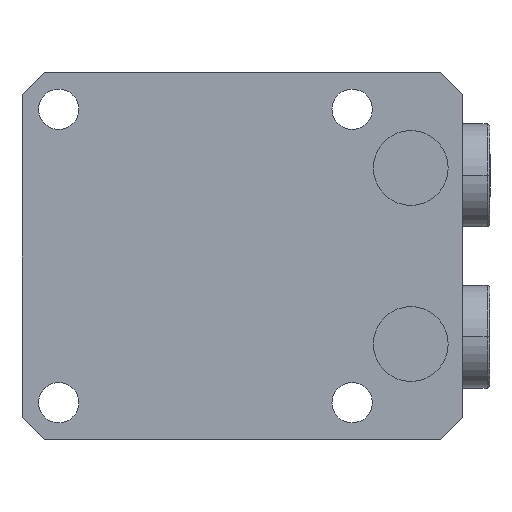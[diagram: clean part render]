
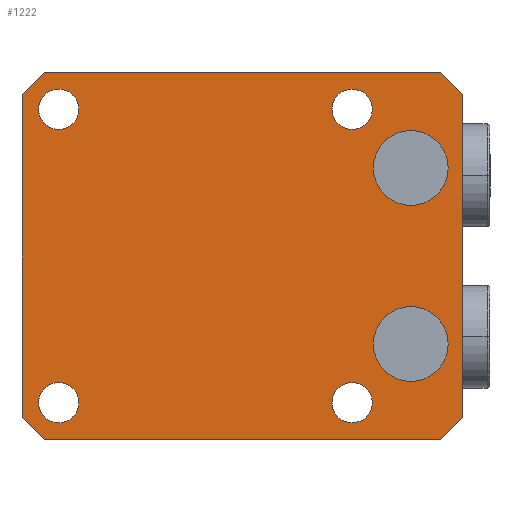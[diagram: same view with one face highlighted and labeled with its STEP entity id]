
A CAD part, front view. The second image highlights one B-rep face of the part: STEP entity #1222.
In plain terms, the highlighted planar face has unit normal (0, -1, 0).
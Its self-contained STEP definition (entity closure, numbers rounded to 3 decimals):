
#235=PLANE('',#4642);
#316=FACE_BOUND('',#1724,.T.);
#317=FACE_BOUND('',#1725,.T.);
#318=FACE_BOUND('',#1726,.T.);
#319=FACE_BOUND('',#1727,.T.);
#320=FACE_BOUND('',#1728,.T.);
#321=FACE_BOUND('',#1729,.T.);
#322=FACE_BOUND('',#1730,.T.);
#624=LINE('',#7044,#952);
#631=LINE('',#7065,#959);
#640=LINE('',#7097,#968);
#645=LINE('',#7115,#973);
#651=LINE('',#7140,#979);
#652=LINE('',#7141,#980);
#653=LINE('',#7142,#981);
#654=LINE('',#7143,#982);
#952=VECTOR('',#5556,1.);
#959=VECTOR('',#5565,1.);
#968=VECTOR('',#5576,1.);
#973=VECTOR('',#5583,1.);
#979=VECTOR('',#5595,1.);
#980=VECTOR('',#5596,1.);
#981=VECTOR('',#5597,1.);
#982=VECTOR('',#5598,1.);
#1222=ADVANCED_FACE('',(#316,#317,#318,#319,#320,#321,#322),#235,.T.);
#1724=EDGE_LOOP('',(#2472,#2473));
#1725=EDGE_LOOP('',(#2474,#2475));
#1726=EDGE_LOOP('',(#2476,#2477));
#1727=EDGE_LOOP('',(#2478,#2479));
#1728=EDGE_LOOP('',(#2480,#2481));
#1729=EDGE_LOOP('',(#2482,#2483));
#1730=EDGE_LOOP('',(#2484,#2485,#2486,#2487,#2488,#2489,#2490,#2491));
#2472=ORIENTED_EDGE('',*,*,#3872,.F.);
#2473=ORIENTED_EDGE('',*,*,#3740,.F.);
#2474=ORIENTED_EDGE('',*,*,#3873,.F.);
#2475=ORIENTED_EDGE('',*,*,#3744,.F.);
#2476=ORIENTED_EDGE('',*,*,#3836,.T.);
#2477=ORIENTED_EDGE('',*,*,#3778,.T.);
#2478=ORIENTED_EDGE('',*,*,#3832,.T.);
#2479=ORIENTED_EDGE('',*,*,#3786,.T.);
#2480=ORIENTED_EDGE('',*,*,#3830,.T.);
#2481=ORIENTED_EDGE('',*,*,#3790,.T.);
#2482=ORIENTED_EDGE('',*,*,#3834,.T.);
#2483=ORIENTED_EDGE('',*,*,#3782,.T.);
#2484=ORIENTED_EDGE('',*,*,#3864,.F.);
#2485=ORIENTED_EDGE('',*,*,#3874,.T.);
#2486=ORIENTED_EDGE('',*,*,#3838,.F.);
#2487=ORIENTED_EDGE('',*,*,#3875,.T.);
#2488=ORIENTED_EDGE('',*,*,#3846,.F.);
#2489=ORIENTED_EDGE('',*,*,#3876,.T.);
#2490=ORIENTED_EDGE('',*,*,#3858,.F.);
#2491=ORIENTED_EDGE('',*,*,#3877,.T.);
#3262=VERTEX_POINT('',#6671);
#3263=VERTEX_POINT('',#6673);
#3266=VERTEX_POINT('',#6680);
#3267=VERTEX_POINT('',#6682);
#3296=VERTEX_POINT('',#6760);
#3297=VERTEX_POINT('',#6761);
#3300=VERTEX_POINT('',#6769);
#3301=VERTEX_POINT('',#6770);
#3304=VERTEX_POINT('',#6778);
#3305=VERTEX_POINT('',#6779);
#3308=VERTEX_POINT('',#6787);
#3309=VERTEX_POINT('',#6788);
#3338=VERTEX_POINT('',#7045);
#3339=VERTEX_POINT('',#7046);
#3346=VERTEX_POINT('',#7066);
#3347=VERTEX_POINT('',#7067);
#3356=VERTEX_POINT('',#7098);
#3357=VERTEX_POINT('',#7099);
#3362=VERTEX_POINT('',#7114);
#3363=VERTEX_POINT('',#7116);
#3740=EDGE_CURVE('',#3262,#3263,#4237,.T.);
#3744=EDGE_CURVE('',#3266,#3267,#4239,.T.);
#3778=EDGE_CURVE('',#3296,#3297,#4253,.T.);
#3782=EDGE_CURVE('',#3300,#3301,#4255,.T.);
#3786=EDGE_CURVE('',#3304,#3305,#4257,.T.);
#3790=EDGE_CURVE('',#3308,#3309,#4259,.T.);
#3830=EDGE_CURVE('',#3309,#3308,#4267,.T.);
#3832=EDGE_CURVE('',#3305,#3304,#4269,.T.);
#3834=EDGE_CURVE('',#3301,#3300,#4271,.T.);
#3836=EDGE_CURVE('',#3297,#3296,#4273,.T.);
#3838=EDGE_CURVE('',#3338,#3339,#624,.T.);
#3846=EDGE_CURVE('',#3346,#3347,#631,.T.);
#3858=EDGE_CURVE('',#3356,#3357,#640,.T.);
#3864=EDGE_CURVE('',#3362,#3363,#645,.T.);
#3872=EDGE_CURVE('',#3263,#3262,#4275,.T.);
#3873=EDGE_CURVE('',#3267,#3266,#4276,.T.);
#3874=EDGE_CURVE('',#3362,#3339,#651,.T.);
#3875=EDGE_CURVE('',#3338,#3347,#652,.T.);
#3876=EDGE_CURVE('',#3346,#3357,#653,.T.);
#3877=EDGE_CURVE('',#3356,#3363,#654,.T.);
#4237=CIRCLE('',#4572,5.1);
#4239=CIRCLE('',#4575,5.1);
#4253=CIRCLE('',#4599,2.75);
#4255=CIRCLE('',#4602,2.75);
#4257=CIRCLE('',#4605,2.75);
#4259=CIRCLE('',#4608,2.75);
#4267=CIRCLE('',#4624,2.75);
#4269=CIRCLE('',#4627,2.75);
#4271=CIRCLE('',#4630,2.75);
#4273=CIRCLE('',#4633,2.75);
#4275=CIRCLE('',#4640,5.1);
#4276=CIRCLE('',#4641,5.1);
#4572=AXIS2_PLACEMENT_3D('',#6672,#5379,#5380);
#4575=AXIS2_PLACEMENT_3D('',#6681,#5387,#5388);
#4599=AXIS2_PLACEMENT_3D('',#6759,#5454,#5455);
#4602=AXIS2_PLACEMENT_3D('',#6768,#5462,#5463);
#4605=AXIS2_PLACEMENT_3D('',#6777,#5470,#5471);
#4608=AXIS2_PLACEMENT_3D('',#6786,#5478,#5479);
#4624=AXIS2_PLACEMENT_3D('',#7032,#5532,#5533);
#4627=AXIS2_PLACEMENT_3D('',#7035,#5538,#5539);
#4630=AXIS2_PLACEMENT_3D('',#7038,#5544,#5545);
#4633=AXIS2_PLACEMENT_3D('',#7041,#5550,#5551);
#4640=AXIS2_PLACEMENT_3D('',#7138,#5591,#5592);
#4641=AXIS2_PLACEMENT_3D('',#7139,#5593,#5594);
#4642=AXIS2_PLACEMENT_3D('',#7144,#5599,#5600);
#5379=DIRECTION('',(0.,-1.,0.));
#5380=DIRECTION('',(0.,0.,-1.));
#5387=DIRECTION('',(0.,-1.,0.));
#5388=DIRECTION('',(0.,0.,-1.));
#5454=DIRECTION('',(0.,1.,0.));
#5455=DIRECTION('',(0.,0.,-1.));
#5462=DIRECTION('',(0.,1.,0.));
#5463=DIRECTION('',(0.,0.,-1.));
#5470=DIRECTION('',(0.,1.,0.));
#5471=DIRECTION('',(0.,0.,-1.));
#5478=DIRECTION('',(0.,1.,0.));
#5479=DIRECTION('',(0.,0.,-1.));
#5532=DIRECTION('',(0.,1.,0.));
#5533=DIRECTION('',(0.,0.,-1.));
#5538=DIRECTION('',(0.,1.,0.));
#5539=DIRECTION('',(0.,0.,-1.));
#5544=DIRECTION('',(0.,1.,0.));
#5545=DIRECTION('',(0.,0.,-1.));
#5550=DIRECTION('',(0.,1.,0.));
#5551=DIRECTION('',(0.,0.,-1.));
#5556=DIRECTION('',(0.,0.,-1.));
#5565=DIRECTION('',(1.,0.,0.));
#5576=DIRECTION('',(0.,0.,1.));
#5583=DIRECTION('',(-1.,0.,0.));
#5591=DIRECTION('',(0.,-1.,0.));
#5592=DIRECTION('',(0.,0.,-1.));
#5593=DIRECTION('',(0.,-1.,0.));
#5594=DIRECTION('',(0.,0.,-1.));
#5595=DIRECTION('',(0.707,0.,0.707));
#5596=DIRECTION('',(-0.707,0.,0.707));
#5597=DIRECTION('',(-0.707,0.,-0.707));
#5598=DIRECTION('',(0.707,0.,-0.707));
#5599=DIRECTION('',(0.,-1.,0.));
#5600=DIRECTION('',(0.,0.,-1.));
#6671=CARTESIAN_POINT('',(-28.,-66.,-6.9));
#6672=CARTESIAN_POINT('',(-28.,-66.,-12.));
#6673=CARTESIAN_POINT('',(-28.,-66.,-17.1));
#6680=CARTESIAN_POINT('',(-28.,-66.,17.1));
#6681=CARTESIAN_POINT('',(-28.,-66.,12.));
#6682=CARTESIAN_POINT('',(-28.,-66.,6.9));
#6759=CARTESIAN_POINT('',(-20.,-66.,-20.));
#6760=CARTESIAN_POINT('',(-20.,-66.,-22.75));
#6761=CARTESIAN_POINT('',(-20.,-66.,-17.25));
#6768=CARTESIAN_POINT('',(20.,-66.,20.));
#6769=CARTESIAN_POINT('',(20.,-66.,17.25));
#6770=CARTESIAN_POINT('',(20.,-66.,22.75));
#6777=CARTESIAN_POINT('',(-20.,-66.,20.));
#6778=CARTESIAN_POINT('',(-20.,-66.,17.25));
#6779=CARTESIAN_POINT('',(-20.,-66.,22.75));
#6786=CARTESIAN_POINT('',(20.,-66.,-20.));
#6787=CARTESIAN_POINT('',(20.,-66.,-22.75));
#6788=CARTESIAN_POINT('',(20.,-66.,-17.25));
#7032=CARTESIAN_POINT('',(20.,-66.,-20.));
#7035=CARTESIAN_POINT('',(-20.,-66.,20.));
#7038=CARTESIAN_POINT('',(20.,-66.,20.));
#7041=CARTESIAN_POINT('',(-20.,-66.,-20.));
#7044=CARTESIAN_POINT('',(25.,-66.,-25.));
#7045=CARTESIAN_POINT('',(25.,-66.,22.));
#7046=CARTESIAN_POINT('',(25.,-66.,-22.));
#7065=CARTESIAN_POINT('',(25.,-66.,25.));
#7066=CARTESIAN_POINT('',(-32.,-66.,25.));
#7067=CARTESIAN_POINT('',(22.,-66.,25.));
#7097=CARTESIAN_POINT('',(-35.,-66.,25.));
#7098=CARTESIAN_POINT('',(-35.,-66.,-22.));
#7099=CARTESIAN_POINT('',(-35.,-66.,22.));
#7114=CARTESIAN_POINT('',(22.,-66.,-25.));
#7115=CARTESIAN_POINT('',(25.,-66.,-25.));
#7116=CARTESIAN_POINT('',(-32.,-66.,-25.));
#7138=CARTESIAN_POINT('',(-28.,-66.,-12.));
#7139=CARTESIAN_POINT('',(-28.,-66.,12.));
#7140=CARTESIAN_POINT('',(48.5,-66.,1.5));
#7141=CARTESIAN_POINT('',(23.5,-66.,23.5));
#7142=CARTESIAN_POINT('',(-3.5,-66.,53.5));
#7143=CARTESIAN_POINT('',(-28.5,-66.,-28.5));
#7144=CARTESIAN_POINT('',(25.,-66.,25.));
